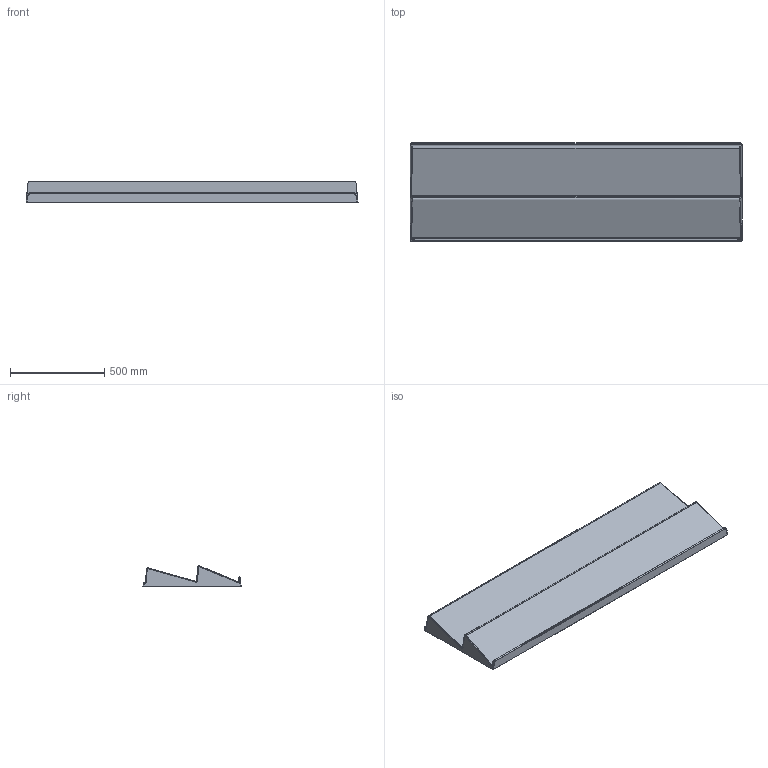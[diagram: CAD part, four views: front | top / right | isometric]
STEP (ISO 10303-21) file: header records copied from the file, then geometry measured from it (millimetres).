
FILE_DESCRIPTION(('STEP AP242'),'1');
FILE_NAME('OPO_50.810.04_volu_schn_3d.stp','2025-11-08T20:22:40',(' '),(' '),'Spatial InterOp 3D',' ',' ');
FILE_SCHEMA(('AP242_MANAGED_MODEL_BASED_3D_ENGINEERING_MIM_LF {1 0 10303 442 1 1 4}'));
Length unit declared in the file: millimetre
Products named in the file (1): 1
Bounding box: 1758 x 520 x 108 mm (x, y, z)
Volume: 2319490.8 mm3; surface area: 2785452.6 mm2
Topology: 4 solids, 4 shells, 191 faces, 1149 edges, 1630 vertices
Faces by surface type: cylinder 108, plane 43, bspline 40
Entity records: 22967 total; most frequent: CARTESIAN_POINT 9177, DIRECTION 1947, ORIENTED_EDGE 956, STYLED_ITEM 862, PRESENTATION_STYLE_ASSIGNMENT 862, COLOUR_RGB 862, AXIS2_PLACEMENT_3D 688, COMPOSITE_CURVE 667
